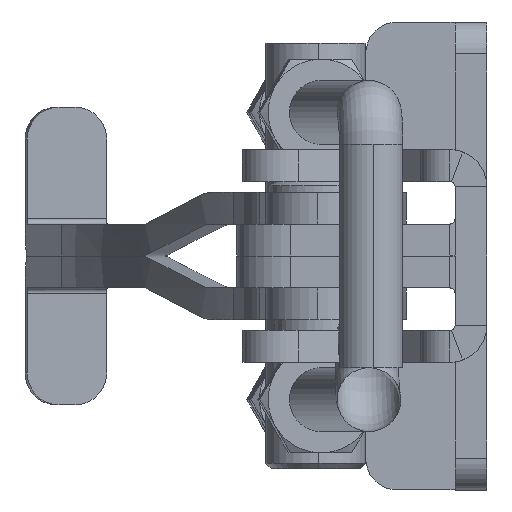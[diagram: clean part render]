
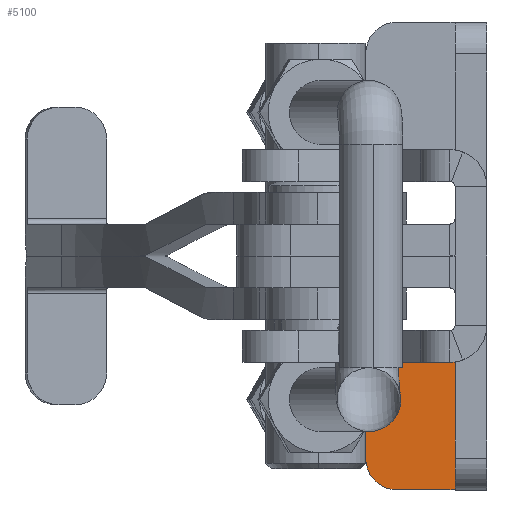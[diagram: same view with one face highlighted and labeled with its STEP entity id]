
A CAD part, left-side view. The second image highlights one B-rep face of the part: STEP entity #5100.
In plain terms, the highlighted planar face has unit normal (-1, 0, 0).
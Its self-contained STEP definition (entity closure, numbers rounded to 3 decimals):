
#90 = ORIENTED_EDGE ( 'NONE', *, *, #5846, .T. ) ;
#235 = VERTEX_POINT ( 'NONE', #8608 ) ;
#480 = CARTESIAN_POINT ( 'NONE',  ( 0., 3., 0. ) ) ;
#608 = ORIENTED_EDGE ( 'NONE', *, *, #9200, .T. ) ;
#694 = CIRCLE ( 'NONE', #1854, 3. ) ;
#809 = DIRECTION ( 'NONE',  ( -1., 0., 0. ) ) ;
#1446 = VERTEX_POINT ( 'NONE', #13870 ) ;
#1783 = DIRECTION ( 'NONE',  ( 1., 0., 0. ) ) ;
#1791 = VECTOR ( 'NONE', #8673, 1000. ) ;
#1854 = AXIS2_PLACEMENT_3D ( 'NONE', #11324, #9942, #2924 ) ;
#2635 = ORIENTED_EDGE ( 'NONE', *, *, #15005, .F. ) ;
#2677 = CARTESIAN_POINT ( 'NONE',  ( 0., 11.4, -22. ) ) ;
#2907 = VECTOR ( 'NONE', #10884, 1000. ) ;
#2924 = DIRECTION ( 'NONE',  ( 0., -1., 0. ) ) ;
#4228 = AXIS2_PLACEMENT_3D ( 'NONE', #8810, #1783, #9987 ) ;
#4932 = ORIENTED_EDGE ( 'NONE', *, *, #15044, .F. ) ;
#5100 = ADVANCED_FACE ( 'NONE', ( #14427 ), #6694, .T. ) ;
#5675 = VERTEX_POINT ( 'NONE', #9572 ) ;
#5844 = EDGE_LOOP ( 'NONE', ( #9519, #2635, #608, #13214, #90, #4932 ) ) ;
#5846 = EDGE_CURVE ( 'NONE', #5675, #1446, #12735, .T. ) ;
#6174 = VECTOR ( 'NONE', #6229, 1000. ) ;
#6229 = DIRECTION ( 'NONE',  ( 0., 1., 0. ) ) ;
#6285 = CARTESIAN_POINT ( 'NONE',  ( 0., 11.4, -7.4 ) ) ;
#6461 = CARTESIAN_POINT ( 'NONE',  ( 0., 11.4, -19. ) ) ;
#6694 = PLANE ( 'NONE',  #8351 ) ;
#8037 = LINE ( 'NONE', #480, #1791 ) ;
#8194 = VERTEX_POINT ( 'NONE', #11802 ) ;
#8351 = AXIS2_PLACEMENT_3D ( 'NONE', #14877, #809, #9018 ) ;
#8608 = CARTESIAN_POINT ( 'NONE',  ( 0., 8.4, -22. ) ) ;
#8673 = DIRECTION ( 'NONE',  ( 0., 0., -1. ) ) ;
#8810 = CARTESIAN_POINT ( 'NONE',  ( 0., 8.4, -10.4 ) ) ;
#9018 = DIRECTION ( 'NONE',  ( 0., -1., 0. ) ) ;
#9036 = LINE ( 'NONE', #12428, #14916 ) ;
#9069 = VERTEX_POINT ( 'NONE', #6461 ) ;
#9200 = EDGE_CURVE ( 'NONE', #235, #14204, #9036, .T. ) ;
#9519 = ORIENTED_EDGE ( 'NONE', *, *, #14620, .T. ) ;
#9572 = CARTESIAN_POINT ( 'NONE',  ( 0., 3., -7.4 ) ) ;
#9695 = CIRCLE ( 'NONE', #4228, 3. ) ;
#9942 = DIRECTION ( 'NONE',  ( 1., 0., 0. ) ) ;
#9987 = DIRECTION ( 'NONE',  ( 0., -1., 0. ) ) ;
#10884 = DIRECTION ( 'NONE',  ( 0., 0., -1. ) ) ;
#11324 = CARTESIAN_POINT ( 'NONE',  ( 0., 8.4, -19. ) ) ;
#11515 = LINE ( 'NONE', #2677, #2907 ) ;
#11590 = CARTESIAN_POINT ( 'NONE',  ( 0., 3., -22. ) ) ;
#11802 = CARTESIAN_POINT ( 'NONE',  ( 0., 11.4, -10.4 ) ) ;
#12428 = CARTESIAN_POINT ( 'NONE',  ( 0., 3., -22. ) ) ;
#12735 = LINE ( 'NONE', #6285, #6174 ) ;
#13214 = ORIENTED_EDGE ( 'NONE', *, *, #14762, .F. ) ;
#13607 = DIRECTION ( 'NONE',  ( 0., -1., 0. ) ) ;
#13870 = CARTESIAN_POINT ( 'NONE',  ( 0., 8.4, -7.4 ) ) ;
#14204 = VERTEX_POINT ( 'NONE', #11590 ) ;
#14427 = FACE_OUTER_BOUND ( 'NONE', #5844, .T. ) ;
#14620 = EDGE_CURVE ( 'NONE', #8194, #9069, #11515, .T. ) ;
#14762 = EDGE_CURVE ( 'NONE', #5675, #14204, #8037, .T. ) ;
#14877 = CARTESIAN_POINT ( 'NONE',  ( 0., 0., 0. ) ) ;
#14916 = VECTOR ( 'NONE', #13607, 1000. ) ;
#15005 = EDGE_CURVE ( 'NONE', #235, #9069, #694, .T. ) ;
#15044 = EDGE_CURVE ( 'NONE', #8194, #1446, #9695, .T. ) ;
